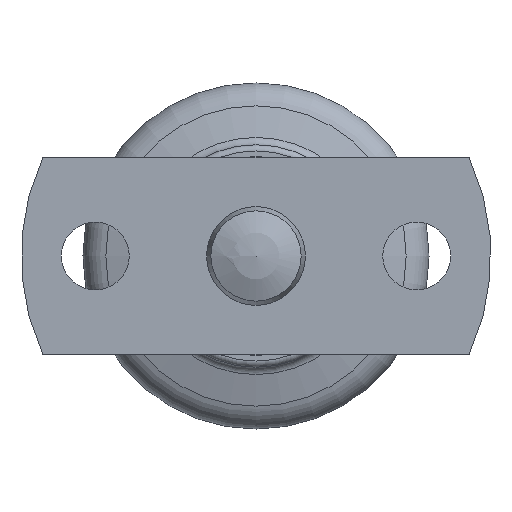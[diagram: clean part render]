
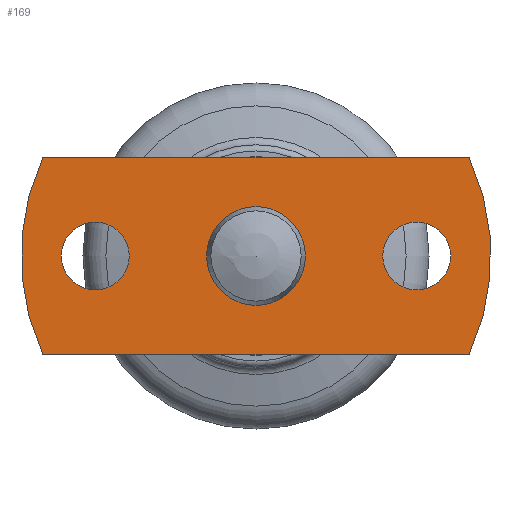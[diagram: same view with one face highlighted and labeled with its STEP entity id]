
A CAD part, front view. The second image highlights one B-rep face of the part: STEP entity #169.
In plain terms, the highlighted planar face has unit normal (0, -1, 0).
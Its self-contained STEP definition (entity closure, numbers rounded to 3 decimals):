
#169 = ADVANCED_FACE( '', ( #211, #212, #213, #214 ), #215, .F. );
#211 = FACE_BOUND( '', #330, .T. );
#212 = FACE_BOUND( '', #331, .T. );
#213 = FACE_BOUND( '', #332, .T. );
#214 = FACE_OUTER_BOUND( '', #333, .T. );
#215 = PLANE( '', #334 );
#330 = EDGE_LOOP( '', ( #448 ) );
#331 = EDGE_LOOP( '', ( #449 ) );
#332 = EDGE_LOOP( '', ( #450 ) );
#333 = EDGE_LOOP( '', ( #451, #452, #453, #454 ) );
#334 = AXIS2_PLACEMENT_3D( '', #455, #456, #457 );
#448 = ORIENTED_EDGE( '', *, *, #670, .F. );
#449 = ORIENTED_EDGE( '', *, *, #671, .T. );
#450 = ORIENTED_EDGE( '', *, *, #672, .F. );
#451 = ORIENTED_EDGE( '', *, *, #673, .F. );
#452 = ORIENTED_EDGE( '', *, *, #674, .F. );
#453 = ORIENTED_EDGE( '', *, *, #675, .F. );
#454 = ORIENTED_EDGE( '', *, *, #676, .F. );
#455 = CARTESIAN_POINT( '', ( 0., 0., 0. ) );
#456 = DIRECTION( '', ( 0., 1., 0. ) );
#457 = DIRECTION( '', ( 0., 0., 1. ) );
#670 = EDGE_CURVE( '', #722, #722, #723, .T. );
#671 = EDGE_CURVE( '', #724, #724, #725, .T. );
#672 = EDGE_CURVE( '', #726, #726, #727, .T. );
#673 = EDGE_CURVE( '', #728, #729, #730, .T. );
#674 = EDGE_CURVE( '', #731, #728, #732, .T. );
#675 = EDGE_CURVE( '', #733, #731, #734, .T. );
#676 = EDGE_CURVE( '', #729, #733, #735, .T. );
#722 = VERTEX_POINT( '', #816 );
#723 = CIRCLE( '', #817, 4. );
#724 = VERTEX_POINT( '', #818 );
#725 = CIRCLE( '', #819, 2.75 );
#726 = VERTEX_POINT( '', #820 );
#727 = CIRCLE( '', #821, 2.75 );
#728 = VERTEX_POINT( '', #822 );
#729 = VERTEX_POINT( '', #823 );
#730 = LINE( '', #824, #825 );
#731 = VERTEX_POINT( '', #826 );
#732 = CIRCLE( '', #827, 19. );
#733 = VERTEX_POINT( '', #828 );
#734 = LINE( '', #829, #830 );
#735 = CIRCLE( '', #831, 19. );
#816 = CARTESIAN_POINT( '', ( 0., 0., -4. ) );
#817 = AXIS2_PLACEMENT_3D( '', #920, #921, #922 );
#818 = CARTESIAN_POINT( '', ( -13., 0., 2.75 ) );
#819 = AXIS2_PLACEMENT_3D( '', #923, #924, #925 );
#820 = CARTESIAN_POINT( '', ( 13., 0., -2.75 ) );
#821 = AXIS2_PLACEMENT_3D( '', #926, #927, #928 );
#822 = CARTESIAN_POINT( '', ( 17.234, 0., -8. ) );
#823 = CARTESIAN_POINT( '', ( -17.234, 0., -8. ) );
#824 = CARTESIAN_POINT( '', ( 17.234, 0., -8. ) );
#825 = VECTOR( '', #929, 1000. );
#826 = CARTESIAN_POINT( '', ( 17.234, 0., 8. ) );
#827 = AXIS2_PLACEMENT_3D( '', #930, #931, #932 );
#828 = CARTESIAN_POINT( '', ( -17.234, 0., 8. ) );
#829 = CARTESIAN_POINT( '', ( -17.234, 0., 8. ) );
#830 = VECTOR( '', #933, 1000. );
#831 = AXIS2_PLACEMENT_3D( '', #934, #935, #936 );
#920 = CARTESIAN_POINT( '', ( 0., 0., 0. ) );
#921 = DIRECTION( '', ( 0., -1., 0. ) );
#922 = DIRECTION( '', ( 0., 0., -1. ) );
#923 = CARTESIAN_POINT( '', ( -13., 0., 0. ) );
#924 = DIRECTION( '', ( 0., 1., 0. ) );
#925 = DIRECTION( '', ( 0., 0., 1. ) );
#926 = CARTESIAN_POINT( '', ( 13., 0., 0. ) );
#927 = DIRECTION( '', ( 0., -1., 0. ) );
#928 = DIRECTION( '', ( 0., 0., -1. ) );
#929 = DIRECTION( '', ( -1., 0., 0. ) );
#930 = CARTESIAN_POINT( '', ( 0., 0., 0. ) );
#931 = DIRECTION( '', ( 0., 1., 0. ) );
#932 = DIRECTION( '', ( 1., 0., 0. ) );
#933 = DIRECTION( '', ( 1., 0., 0. ) );
#934 = CARTESIAN_POINT( '', ( 0., 0., 0. ) );
#935 = DIRECTION( '', ( 0., 1., 0. ) );
#936 = DIRECTION( '', ( 1., 0., 0. ) );
